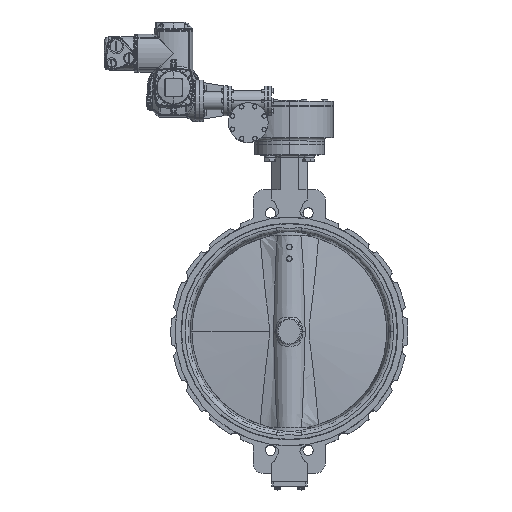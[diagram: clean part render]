
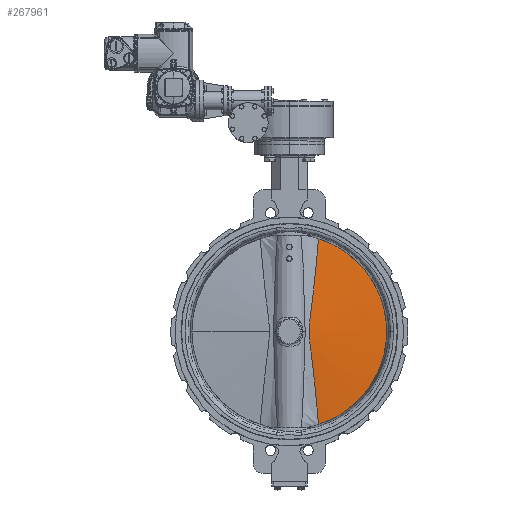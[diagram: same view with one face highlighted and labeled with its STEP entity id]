
A CAD part, top view. The second image highlights one B-rep face of the part: STEP entity #267961.
In plain terms, the highlighted conical face has half-angle 85 degrees and reference radius 294.25 mm.
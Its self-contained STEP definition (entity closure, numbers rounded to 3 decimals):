
#845 = CARTESIAN_POINT ( 'NONE',  ( 63.466, -46.094, 23.64 ) ) ;
#1849 = CARTESIAN_POINT ( 'NONE',  ( 65.883, 65.338, 22.381 ) ) ;
#23063 = CARTESIAN_POINT ( 'NONE',  ( 68.076, 82.779, 21.12 ) ) ;
#24070 = CARTESIAN_POINT ( 'NONE',  ( 86.075, -257.276, 6.763 ) ) ;
#25065 = CARTESIAN_POINT ( 'NONE',  ( 67.152, -75.398, 21.665 ) ) ;
#25527 = DIRECTION ( 'NONE',  ( 0., 0., 1. ) ) ;
#26530 = CARTESIAN_POINT ( 'NONE',  ( 0., 0., 4.75 ) ) ;
#41913 = VERTEX_POINT ( 'NONE', #69624 ) ;
#42281 = CARTESIAN_POINT ( 'NONE',  ( 87.965, 280.794, 4.75 ) ) ;
#43271 = CARTESIAN_POINT ( 'NONE',  ( 84.084, 234.133, 8.736 ) ) ;
#43921 = B_SPLINE_CURVE_WITH_KNOTS ( 'NONE', 3,
 ( #42281, #251111, #43271, #136100, #205729, #163313, #138114, #91683, #116875, #23063, #92679, #1849, #140105, #71539, #137115, #256156, #253116, #139105, #229907, #278341, #206737, #115884, #94698, #68545, #208765, #254122, #277330, #114879, #275326, #45265, #845, #47310, #228912, #25065, #299519, #276323, #186519, #184542, #162313, #48309, #209757, #298543, #24070, #161305 ),
 .UNSPECIFIED., .F., .F.,
 ( 4, 2, 2, 2, 2, 2, 2, 2, 2, 2, 2, 2, 2, 2, 2, 2, 2, 2, 2, 2, 2, 4 ),
 ( 0., 0.07, 0.141, 0.176, 0.194, 0.211, 0.229, 0.247, 0.264, 0.273, 0.282, 0.286, 0.291, 0.3, 0.317, 0.335, 0.352, 0.37, 0.388, 0.423, 0.493, 0.564 ),
 .UNSPECIFIED. ) ;
#44130 = DIRECTION ( 'NONE',  ( -1., 0., 0. ) ) ;
#45265 = CARTESIAN_POINT ( 'NONE',  ( 62.748, -40.229, 23.986 ) ) ;
#47310 = CARTESIAN_POINT ( 'NONE',  ( 64.927, -57.819, 22.896 ) ) ;
#48309 = CARTESIAN_POINT ( 'NONE',  ( 77.321, -163.319, 14.703 ) ) ;
#68545 = CARTESIAN_POINT ( 'NONE',  ( 59.886, -4.859, 25.239 ) ) ;
#69624 = CARTESIAN_POINT ( 'NONE',  ( 87.965, 280.794, 4.75 ) ) ;
#71539 = CARTESIAN_POINT ( 'NONE',  ( 63.687, 47.888, 23.531 ) ) ;
#84261 = AXIS2_PLACEMENT_3D ( 'NONE', #204592, #135959, #44130 ) ;
#91516 = VERTEX_POINT ( 'NONE', #290588 ) ;
#91683 = CARTESIAN_POINT ( 'NONE',  ( 70.209, 100.222, 19.79 ) ) ;
#92679 = CARTESIAN_POINT ( 'NONE',  ( 67.349, 76.966, 21.551 ) ) ;
#94698 = CARTESIAN_POINT ( 'NONE',  ( 59.84, -1.895, 25.257 ) ) ;
#114879 = CARTESIAN_POINT ( 'NONE',  ( 60.862, -22.599, 24.835 ) ) ;
#115884 = CARTESIAN_POINT ( 'NONE',  ( 59.832, -0.415, 25.26 ) ) ;
#116875 = CARTESIAN_POINT ( 'NONE',  ( 69.506, 94.408, 20.24 ) ) ;
#135959 = DIRECTION ( 'NONE',  ( 0., 0., -1. ) ) ;
#136100 = CARTESIAN_POINT ( 'NONE',  ( 79.745, 187.514, 12.675 ) ) ;
#137115 = CARTESIAN_POINT ( 'NONE',  ( 62.969, 42.068, 23.881 ) ) ;
#138114 = CARTESIAN_POINT ( 'NONE',  ( 72.277, 117.669, 18.421 ) ) ;
#139105 = CARTESIAN_POINT ( 'NONE',  ( 60.374, 15.784, 25.039 ) ) ;
#140105 = CARTESIAN_POINT ( 'NONE',  ( 65.143, 59.523, 22.781 ) ) ;
#143541 = DIRECTION ( 'NONE',  ( 1., 0., 0. ) ) ;
#160908 = CONICAL_SURFACE ( 'NONE', #84261, 294.25, 1.484 ) ;
#161305 = CARTESIAN_POINT ( 'NONE',  ( 87.965, -280.794, 4.75 ) ) ;
#162313 = CARTESIAN_POINT ( 'NONE',  ( 73.469, -128.136, 17.577 ) ) ;
#163313 = CARTESIAN_POINT ( 'NONE',  ( 73.6, 129.303, 17.482 ) ) ;
#168157 = FACE_OUTER_BOUND ( 'NONE', #206160, .T. ) ;
#184542 = CARTESIAN_POINT ( 'NONE',  ( 72.132, -116.412, 18.521 ) ) ;
#186519 = CARTESIAN_POINT ( 'NONE',  ( 70.042, -98.832, 19.898 ) ) ;
#198563 = EDGE_CURVE ( 'NONE', #41913, #91516, #43921, .T. ) ;
#204592 = CARTESIAN_POINT ( 'NONE',  ( 0., 0., 4.75 ) ) ;
#205028 = EDGE_CURVE ( 'NONE', #91516, #41913, #232223, .T. ) ;
#205729 = CARTESIAN_POINT ( 'NONE',  ( 77.413, 164.22, 14.628 ) ) ;
#206160 = EDGE_LOOP ( 'NONE', ( #298166, #236164 ) ) ;
#206737 = CARTESIAN_POINT ( 'NONE',  ( 59.853, 4.019, 25.252 ) ) ;
#208765 = CARTESIAN_POINT ( 'NONE',  ( 59.924, -6.343, 25.223 ) ) ;
#209757 = CARTESIAN_POINT ( 'NONE',  ( 79.675, -186.793, 12.736 ) ) ;
#228912 = CARTESIAN_POINT ( 'NONE',  ( 65.673, -63.679, 22.496 ) ) ;
#229907 = CARTESIAN_POINT ( 'NONE',  ( 60.19, 12.85, 25.115 ) ) ;
#232223 = CIRCLE ( 'NONE', #289042, 294.25 ) ;
#236164 = ORIENTED_EDGE ( 'NONE', *, *, #198563, .T. ) ;
#251111 = CARTESIAN_POINT ( 'NONE',  ( 86.09, 257.458, 6.747 ) ) ;
#253116 = CARTESIAN_POINT ( 'NONE',  ( 61.045, 24.572, 24.756 ) ) ;
#254122 = CARTESIAN_POINT ( 'NONE',  ( 60.082, -10.788, 25.159 ) ) ;
#256156 = CARTESIAN_POINT ( 'NONE',  ( 61.648, 30.41, 24.494 ) ) ;
#267961 = ADVANCED_FACE ( 'NONE', ( #168157 ), #160908, .T. ) ;
#275326 = CARTESIAN_POINT ( 'NONE',  ( 61.446, -28.482, 24.583 ) ) ;
#276323 = CARTESIAN_POINT ( 'NONE',  ( 69.331, -92.973, 20.35 ) ) ;
#277330 = CARTESIAN_POINT ( 'NONE',  ( 60.244, -13.745, 25.093 ) ) ;
#278341 = CARTESIAN_POINT ( 'NONE',  ( 59.93, 6.967, 25.221 ) ) ;
#289042 = AXIS2_PLACEMENT_3D ( 'NONE', #26530, #25527, #143541 ) ;
#290588 = CARTESIAN_POINT ( 'NONE',  ( 87.965, -280.794, 4.75 ) ) ;
#298166 = ORIENTED_EDGE ( 'NONE', *, *, #205028, .T. ) ;
#298543 = CARTESIAN_POINT ( 'NONE',  ( 84.052, -233.772, 8.767 ) ) ;
#299519 = CARTESIAN_POINT ( 'NONE',  ( 67.886, -81.256, 21.234 ) ) ;
